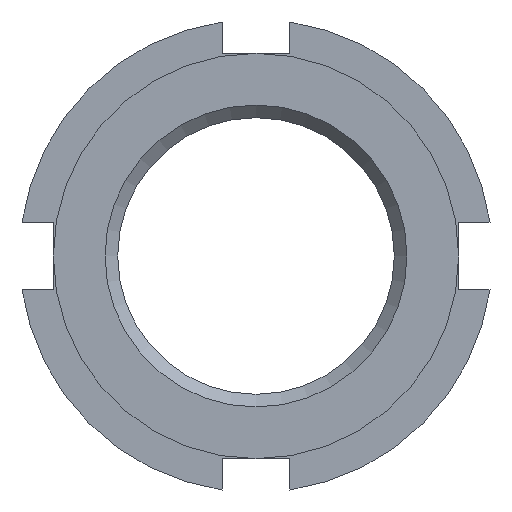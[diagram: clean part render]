
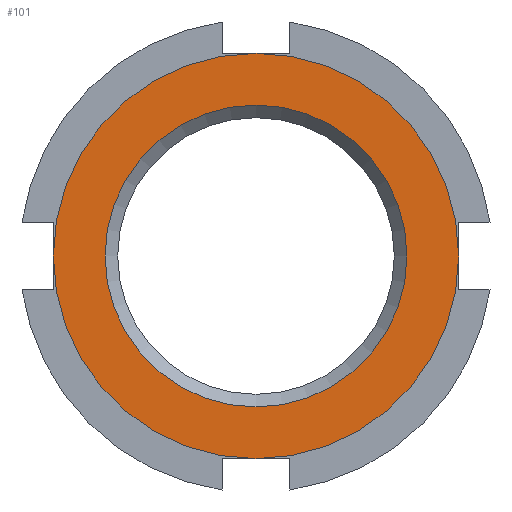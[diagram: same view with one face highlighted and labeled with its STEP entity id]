
A CAD part, left-side view. The second image highlights one B-rep face of the part: STEP entity #101.
In plain terms, the highlighted planar face has unit normal (-1, 0, 0).
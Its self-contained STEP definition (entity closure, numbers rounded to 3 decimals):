
#101 = ADVANCED_FACE( '', ( #169, #170 ), #171, .F. );
#169 = FACE_OUTER_BOUND( '', #247, .T. );
#170 = FACE_BOUND( '', #248, .T. );
#171 = PLANE( '', #249 );
#247 = EDGE_LOOP( '', ( #462 ) );
#248 = EDGE_LOOP( '', ( #463 ) );
#249 = AXIS2_PLACEMENT_3D( '', #464, #465, #466 );
#462 = ORIENTED_EDGE( '', *, *, #571, .F. );
#463 = ORIENTED_EDGE( '', *, *, #550, .T. );
#464 = CARTESIAN_POINT( '', ( 0., 0., 0. ) );
#465 = DIRECTION( '', ( 1., 0., 0. ) );
#466 = DIRECTION( '', ( 0., 0., -1. ) );
#550 = EDGE_CURVE( '', #656, #656, #657, .T. );
#571 = EDGE_CURVE( '', #685, #685, #686, .T. );
#656 = VERTEX_POINT( '', #829 );
#657 = CIRCLE( '', #830, 8.938 );
#685 = VERTEX_POINT( '', #869 );
#686 = CIRCLE( '', #870, 12. );
#829 = CARTESIAN_POINT( '', ( 0., 0., -8.938 ) );
#830 = AXIS2_PLACEMENT_3D( '', #947, #948, #949 );
#869 = CARTESIAN_POINT( '', ( 0., 0., -12. ) );
#870 = AXIS2_PLACEMENT_3D( '', #994, #995, #996 );
#947 = CARTESIAN_POINT( '', ( 0., 0., 0. ) );
#948 = DIRECTION( '', ( 1., 0., 0. ) );
#949 = DIRECTION( '', ( 0., 0., -1. ) );
#994 = CARTESIAN_POINT( '', ( 0., 0., 0. ) );
#995 = DIRECTION( '', ( 1., 0., 0. ) );
#996 = DIRECTION( '', ( 0., 0., -1. ) );
